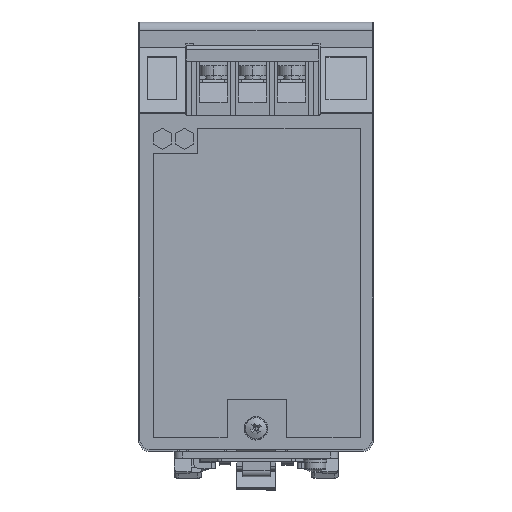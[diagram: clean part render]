
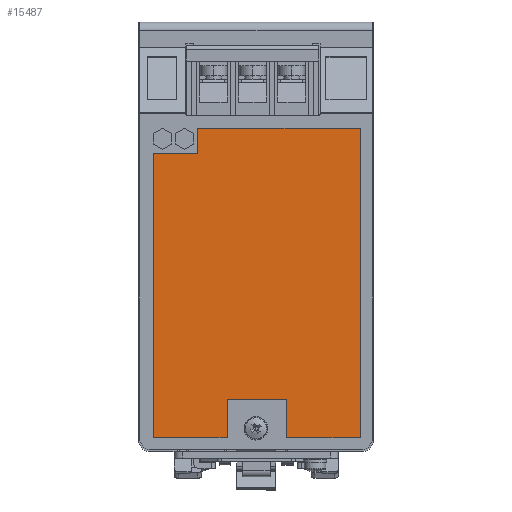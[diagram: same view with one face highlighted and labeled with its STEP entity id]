
A CAD part, front view. The second image highlights one B-rep face of the part: STEP entity #15487.
In plain terms, the highlighted planar face has unit normal (0, -1, 0).
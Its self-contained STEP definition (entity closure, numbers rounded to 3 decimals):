
#15437 = ORIENTED_EDGE ( 'NONE', *, *, #15438, .T. ) ;
#15438 = EDGE_CURVE ( 'NONE', #15511, #15439, #49373, .T. ) ;
#15439 = VERTEX_POINT ( 'NONE', #49366 ) ;
#15463 = EDGE_LOOP ( 'NONE', ( #15464, #15475, #15540, #15503, #15509, #15437, #15506, #15500, #15514, #15499 ) ) ;
#15464 = ORIENTED_EDGE ( 'NONE', *, *, #15489, .T. ) ;
#15468 = VERTEX_POINT ( 'NONE', #49539 ) ;
#15471 = VERTEX_POINT ( 'NONE', #49536 ) ;
#15475 = ORIENTED_EDGE ( 'NONE', *, *, #15492, .T. ) ;
#15481 = VERTEX_POINT ( 'NONE', #49594 ) ;
#15487 = ADVANCED_FACE ( 'NONE', ( #49569 ), #49646, .F. ) ;
#15489 = EDGE_CURVE ( 'NONE', #15468, #15471, #49635, .T. ) ;
#15492 = EDGE_CURVE ( 'NONE', #15471, #15481, #49623, .T. ) ;
#15496 = EDGE_CURVE ( 'NONE', #15505, #15497, #41837, .T. ) ;
#15497 = VERTEX_POINT ( 'NONE', #25688 ) ;
#15498 = EDGE_CURVE ( 'NONE', #15497, #15468, #25687, .T. ) ;
#15499 = ORIENTED_EDGE ( 'NONE', *, *, #15498, .T. ) ;
#15500 = ORIENTED_EDGE ( 'NONE', *, *, #15501, .T. ) ;
#15501 = EDGE_CURVE ( 'NONE', #15516, #15505, #25683, .T. ) ;
#15502 = VERTEX_POINT ( 'NONE', #25679 ) ;
#15503 = ORIENTED_EDGE ( 'NONE', *, *, #15504, .T. ) ;
#15504 = EDGE_CURVE ( 'NONE', #15502, #15508, #25678, .T. ) ;
#15505 = VERTEX_POINT ( 'NONE', #25674 ) ;
#15506 = ORIENTED_EDGE ( 'NONE', *, *, #15512, .T. ) ;
#15508 = VERTEX_POINT ( 'NONE', #25708 ) ;
#15509 = ORIENTED_EDGE ( 'NONE', *, *, #15510, .T. ) ;
#15510 = EDGE_CURVE ( 'NONE', #15508, #15511, #25707, .T. ) ;
#15511 = VERTEX_POINT ( 'NONE', #25703 ) ;
#15512 = EDGE_CURVE ( 'NONE', #15439, #15516, #25702, .T. ) ;
#15514 = ORIENTED_EDGE ( 'NONE', *, *, #15496, .T. ) ;
#15516 = VERTEX_POINT ( 'NONE', #25698 ) ;
#15537 = EDGE_CURVE ( 'NONE', #15481, #15502, #25727, .T. ) ;
#15540 = ORIENTED_EDGE ( 'NONE', *, *, #15537, .T. ) ;
#25674 = CARTESIAN_POINT ( 'NONE',  ( 56.7, 0.5, 3.6 ) ) ;
#25675 = DIRECTION ( 'NONE',  ( 1., 0., 0. ) ) ;
#25676 = VECTOR ( 'NONE', #25675, 1000. ) ;
#25677 = CARTESIAN_POINT ( 'NONE',  ( 0.2, 0.5, 3.6 ) ) ;
#25678 = LINE ( 'NONE', #25677, #25676 ) ;
#25679 = CARTESIAN_POINT ( 'NONE',  ( 3.7, 0.5, 3.6 ) ) ;
#25680 = DIRECTION ( 'NONE',  ( 1., 0., 0. ) ) ;
#25681 = VECTOR ( 'NONE', #25680, 1000. ) ;
#25682 = CARTESIAN_POINT ( 'NONE',  ( 0.2, 0.5, 3.6 ) ) ;
#25683 = LINE ( 'NONE', #25682, #25681 ) ;
#25684 = DIRECTION ( 'NONE',  ( -1., 0., 0. ) ) ;
#25685 = VECTOR ( 'NONE', #25684, 1000. ) ;
#25686 = CARTESIAN_POINT ( 'NONE',  ( 0.2, 0.5, 82.8 ) ) ;
#25687 = LINE ( 'NONE', #25686, #25685 ) ;
#25688 = CARTESIAN_POINT ( 'NONE',  ( 56.7, 0.5, 82.8 ) ) ;
#25698 = CARTESIAN_POINT ( 'NONE',  ( 37.8, 0.5, 3.6 ) ) ;
#25699 = DIRECTION ( 'NONE',  ( 0., 0., -1. ) ) ;
#25700 = VECTOR ( 'NONE', #25699, 1000. ) ;
#25701 = CARTESIAN_POINT ( 'NONE',  ( 37.8, 0.5, 116.28 ) ) ;
#25702 = LINE ( 'NONE', #25701, #25700 ) ;
#25703 = CARTESIAN_POINT ( 'NONE',  ( 22.6, 0.5, 13.5 ) ) ;
#25704 = DIRECTION ( 'NONE',  ( 0., 0., 1. ) ) ;
#25705 = VECTOR ( 'NONE', #25704, 1000. ) ;
#25706 = CARTESIAN_POINT ( 'NONE',  ( 22.6, 0.5, 116.28 ) ) ;
#25707 = LINE ( 'NONE', #25706, #25705 ) ;
#25708 = CARTESIAN_POINT ( 'NONE',  ( 22.6, 0.5, 3.6 ) ) ;
#25724 = DIRECTION ( 'NONE',  ( 0., 0., -1. ) ) ;
#25725 = VECTOR ( 'NONE', #25724, 1000. ) ;
#25726 = CARTESIAN_POINT ( 'NONE',  ( 3.7, 0.5, 116.28 ) ) ;
#25727 = LINE ( 'NONE', #25726, #25725 ) ;
#41834 = DIRECTION ( 'NONE',  ( 0., 0., 1. ) ) ;
#41835 = VECTOR ( 'NONE', #41834, 1000. ) ;
#41836 = CARTESIAN_POINT ( 'NONE',  ( 56.7, 0.5, 116.28 ) ) ;
#41837 = LINE ( 'NONE', #41836, #41835 ) ;
#49366 = CARTESIAN_POINT ( 'NONE',  ( 37.8, 0.5, 13.5 ) ) ;
#49368 = DIRECTION ( 'NONE',  ( 1., 0., 0. ) ) ;
#49370 = VECTOR ( 'NONE', #49368, 1000. ) ;
#49372 = CARTESIAN_POINT ( 'NONE',  ( 0.2, 0.5, 13.5 ) ) ;
#49373 = LINE ( 'NONE', #49372, #49370 ) ;
#49536 = CARTESIAN_POINT ( 'NONE',  ( 15.06, 0.5, 76.4 ) ) ;
#49539 = CARTESIAN_POINT ( 'NONE',  ( 15.06, 0.5, 82.8 ) ) ;
#49569 = FACE_OUTER_BOUND ( 'NONE', #15463, .T. ) ;
#49594 = CARTESIAN_POINT ( 'NONE',  ( 3.7, 0.5, 76.4 ) ) ;
#49621 = VECTOR ( 'NONE', #49726, 1000. ) ;
#49622 = CARTESIAN_POINT ( 'NONE',  ( 0.2, 0.5, 76.4 ) ) ;
#49623 = LINE ( 'NONE', #49622, #49621 ) ;
#49629 = DIRECTION ( 'NONE',  ( 0., 0., -1. ) ) ;
#49631 = VECTOR ( 'NONE', #49629, 1000. ) ;
#49633 = CARTESIAN_POINT ( 'NONE',  ( 15.06, 0.5, 116.28 ) ) ;
#49635 = LINE ( 'NONE', #49633, #49631 ) ;
#49638 = DIRECTION ( 'NONE',  ( 0., 0., 1. ) ) ;
#49639 = DIRECTION ( 'NONE',  ( 0., 1., 0. ) ) ;
#49640 = CARTESIAN_POINT ( 'NONE',  ( 58.5, 0.5, 1.5 ) ) ;
#49642 = AXIS2_PLACEMENT_3D ( 'NONE', #49640, #49639, #49638 ) ;
#49646 = PLANE ( 'NONE',  #49642 ) ;
#49726 = DIRECTION ( 'NONE',  ( -1., 0., 0. ) ) ;
